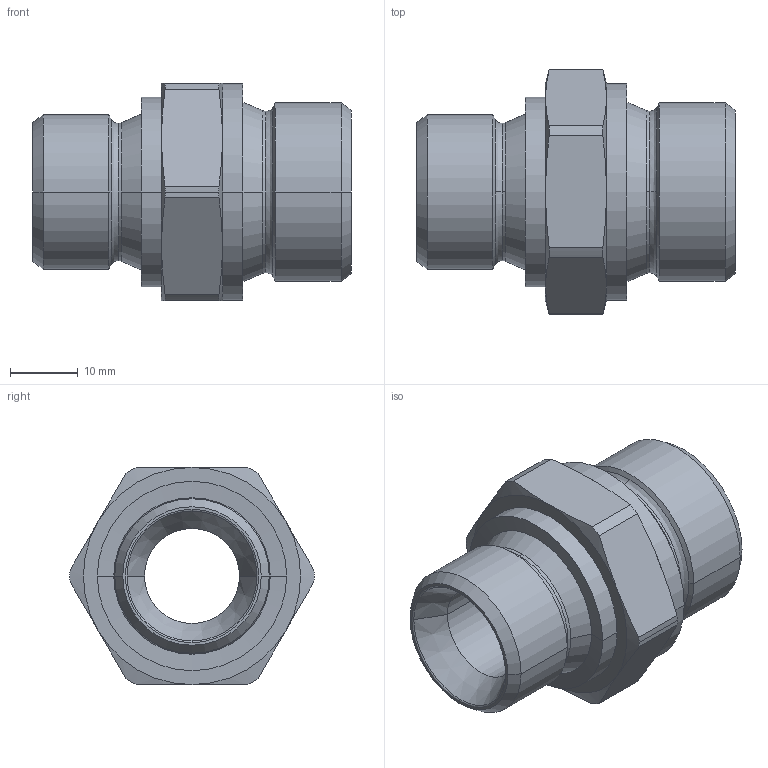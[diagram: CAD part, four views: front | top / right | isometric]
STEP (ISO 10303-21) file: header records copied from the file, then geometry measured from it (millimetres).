
FILE_DESCRIPTION((''),'2;1');
FILE_NAME('300517.stp','2006-09-11T08:12:06',(''),(''),'AutoCAD STEP 2000i','AutoCAD 2000i',', , ');
FILE_SCHEMA(('CONFIG_CONTROL_DESIGN'));
Length unit declared in the file: millimetre
Products named in the file (2): 300517.0; CHIAVE SMUSSATA#0
Assembly tree (1 placements, depth 2):
  300517.0
    CHIAVE SMUSSATA#0
Bounding box: 47 x 36 x 32 mm (x, y, z)
Volume: 16980.3 mm3; surface area: 7499.2 mm2
Topology: 1 solids, 1 shells, 76 faces, 178 edges, 106 vertices
Faces by surface type: cone 34, cylinder 20, plane 10, bspline 8, torus 4
Entity records: 2593 total; most frequent: CARTESIAN_POINT 762, DIRECTION 400, ORIENTED_EDGE 356, EDGE_CURVE 178, AXIS2_PLACEMENT_3D 176, VERTEX_POINT 106, CIRCLE 106, EDGE_LOOP 80
